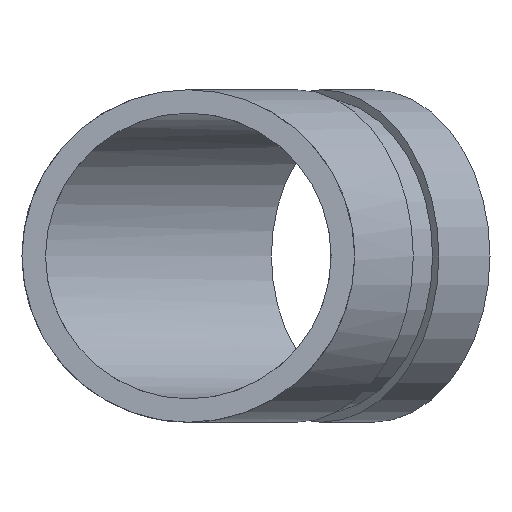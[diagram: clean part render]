
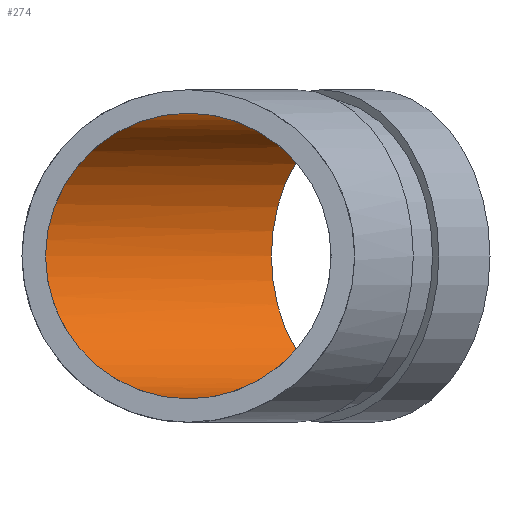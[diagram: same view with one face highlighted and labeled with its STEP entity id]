
A CAD part, front view. The second image highlights one B-rep face of the part: STEP entity #274.
In plain terms, the highlighted cylindrical face has radius 31.356 mm (diameter 62.713 mm), a full revolution.
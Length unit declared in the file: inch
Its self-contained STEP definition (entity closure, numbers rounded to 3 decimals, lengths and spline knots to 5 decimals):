
#45=ELLIPSE('',#322,1.33621,1.2345);
#46=ELLIPSE('',#323,1.33621,1.2345);
#47=ELLIPSE('',#324,1.33621,1.2345);
#72=FACE_OUTER_BOUND('',#90,.T.);
#90=EDGE_LOOP('',(#219,#220,#221,#222,#223,#224));
#102=LINE('',#510,#110);
#110=VECTOR('',#413,1.2345);
#128=CIRCLE('',#327,1.2345);
#143=VERTEX_POINT('',#498);
#144=VERTEX_POINT('',#499);
#145=VERTEX_POINT('',#501);
#147=VERTEX_POINT('',#508);
#169=EDGE_CURVE('',#143,#144,#45,.T.);
#170=EDGE_CURVE('',#143,#145,#46,.T.);
#171=EDGE_CURVE('',#144,#145,#47,.T.);
#174=EDGE_CURVE('',#147,#147,#128,.T.);
#175=EDGE_CURVE('',#147,#144,#102,.T.);
#219=ORIENTED_EDGE('',*,*,#174,.F.);
#220=ORIENTED_EDGE('',*,*,#175,.T.);
#221=ORIENTED_EDGE('',*,*,#171,.T.);
#222=ORIENTED_EDGE('',*,*,#170,.F.);
#223=ORIENTED_EDGE('',*,*,#169,.T.);
#224=ORIENTED_EDGE('',*,*,#175,.F.);
#246=CYLINDRICAL_SURFACE('',#326,1.2345);
#274=ADVANCED_FACE('',(#72),#246,.F.);
#322=AXIS2_PLACEMENT_3D('',#500,#400,#401);
#323=AXIS2_PLACEMENT_3D('',#502,#402,#403);
#324=AXIS2_PLACEMENT_3D('',#503,#404,#405);
#326=AXIS2_PLACEMENT_3D('',#507,#409,#410);
#327=AXIS2_PLACEMENT_3D('',#509,#411,#412);
#400=DIRECTION('center_axis',(-0.383,-0.924,0.));
#401=DIRECTION('ref_axis',(0.924,-0.383,0.));
#402=DIRECTION('center_axis',(0.383,0.924,0.));
#403=DIRECTION('ref_axis',(0.924,-0.383,0.));
#404=DIRECTION('center_axis',(-0.383,-0.924,0.));
#405=DIRECTION('ref_axis',(0.924,-0.383,0.));
#409=DIRECTION('center_axis',(-0.707,-0.707,0.));
#410=DIRECTION('ref_axis',(0.707,-0.707,0.));
#411=DIRECTION('center_axis',(-0.707,-0.707,0.));
#412=DIRECTION('ref_axis',(0.707,-0.707,0.));
#413=DIRECTION('',(-0.707,-0.707,0.));
#498=CARTESIAN_POINT('',(0.,0.,1.2345));
#499=CARTESIAN_POINT('',(-1.2345,0.51135,0.));
#500=CARTESIAN_POINT('Origin',(0.,0.,0.));
#501=CARTESIAN_POINT('',(0.,0.,-1.2345));
#502=CARTESIAN_POINT('Origin',(0.,0.,0.));
#503=CARTESIAN_POINT('Origin',(0.,0.,0.));
#507=CARTESIAN_POINT('Origin',(1.59099,1.59099,0.));
#508=CARTESIAN_POINT('',(0.71807,2.46391,0.));
#509=CARTESIAN_POINT('Origin',(1.59099,1.59099,0.));
#510=CARTESIAN_POINT('',(0.71807,2.46391,0.));
